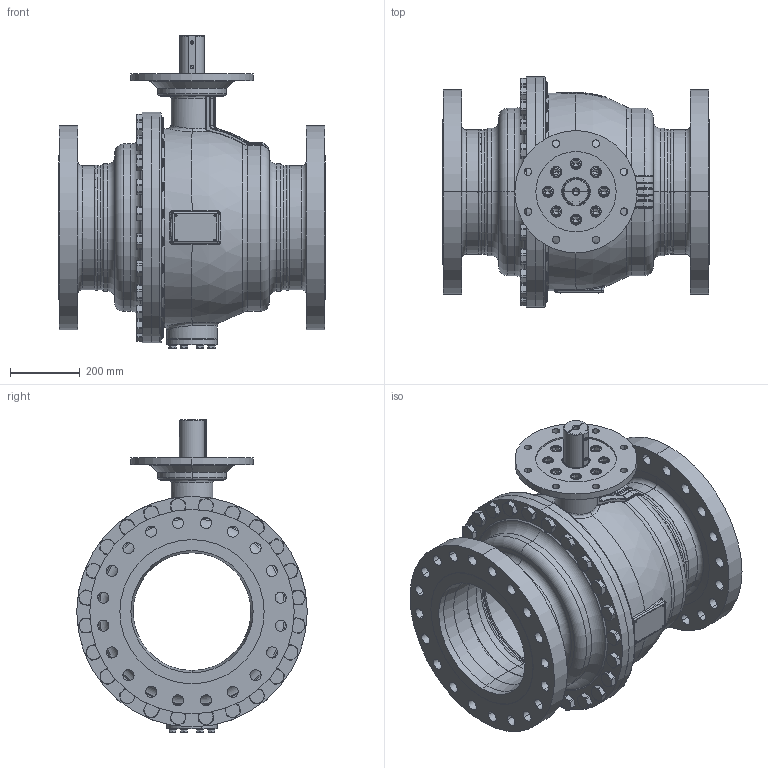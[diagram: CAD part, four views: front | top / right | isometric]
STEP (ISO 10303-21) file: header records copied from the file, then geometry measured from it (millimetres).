
FILE_DESCRIPTION((''),'2;1');
FILE_NAME('KHI-F_350_CL300-F30-P_SW0001','2026-02-05T15:54:42',('fischerkl'),('KLINGER'),'CREO PARAMETRIC BY PTC INC, 2023014','CREO PARAMETRIC BY PTC INC, 2023014','');
FILE_SCHEMA(('CONFIG_CONTROL_DESIGN'));
Products named in the file (1): KHI-F_350_CL300-F30-P_SW0001
Bounding box: 762 x 660 x 895.8 mm (x, y, z)
Volume: 53799830.8 mm3; surface area: 6531172.9 mm2
Topology: 1 solids, 4 shells, 3450 faces, 8713 edges, 5441 vertices
Faces by surface type: plane 1745, cylinder 823, cone 454, torus 299, bspline 99, sphere 30
Entity records: 145594 total; most frequent: CARTESIAN_POINT 63222, ORIENTED_EDGE 17374, DIRECTION 17082, EDGE_CURVE 8687, AXIS2_PLACEMENT_3D 6522, VERTEX_POINT 5441, VECTOR 4038, LINE 4038
